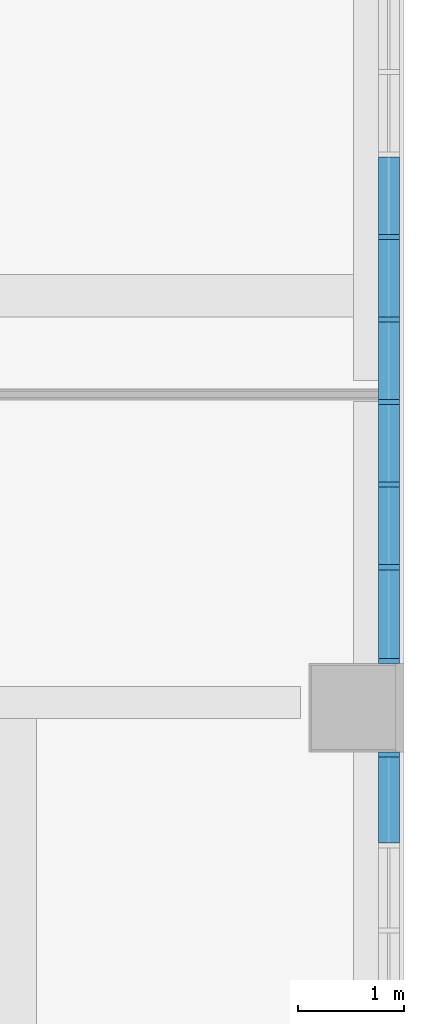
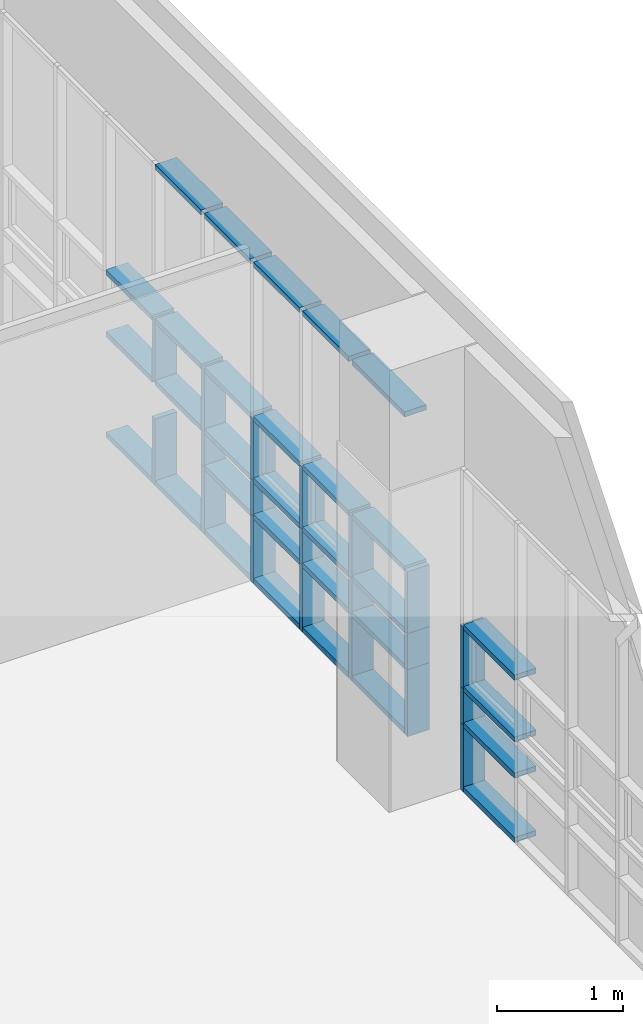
# One storey, part 25 of 74: 51 members, 2 elements without a shape of their own.
"""IFC2X3 building model written with IfcOpenShell, lengths in millimetres."""

from ifc_helpers import new_model, entity, si_unit, converted_unit, derived_unit, direction, frame, origin, origin_2d_with_axis, place, context, subcontext, project, spatial, rectangle, extrude, source, transform, mapped, material, type_object, type_shapes, element, aggregate, save


model = new_model("IFC2X3")

# Units and contexts
model_context = context("Model", 3, precision=0.01, world=origin(), true_north=direction((6.123031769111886e-17, 1.0)))
body_context = subcontext(model_context, "Body", "Model", "MODEL_VIEW")
ifc_project = project(units=[si_unit("LENGTHUNIT", "METRE", prefix="MILLI"), si_unit("AREAUNIT", "SQUARE_METRE"), si_unit("VOLUMEUNIT", "CUBIC_METRE"), converted_unit("PLANEANGLEUNIT", "DEGREE", entity("IfcRatioMeasure", 0.017453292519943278), si_unit("PLANEANGLEUNIT", "RADIAN"), dimensions=[0, 0, 0, 0, 0, 0, 0]), si_unit("MASSUNIT", "GRAM", prefix="KILO"), derived_unit("MASSDENSITYUNIT", [(si_unit("MASSUNIT", "GRAM", prefix="KILO"), 1), (si_unit("LENGTHUNIT", "METRE"), -3)]), derived_unit("MOMENTOFINERTIAUNIT", [(si_unit("LENGTHUNIT", "METRE"), 4)]), si_unit("TIMEUNIT", "SECOND"), si_unit("FREQUENCYUNIT", "HERTZ"), si_unit("THERMODYNAMICTEMPERATUREUNIT", "DEGREE_CELSIUS"), derived_unit("THERMALTRANSMITTANCEUNIT", [(si_unit("MASSUNIT", "GRAM", prefix="KILO"), 1), (si_unit("THERMODYNAMICTEMPERATUREUNIT", "KELVIN"), -1), (si_unit("TIMEUNIT", "SECOND"), -3)]), derived_unit("VOLUMETRICFLOWRATEUNIT", [(si_unit("LENGTHUNIT", "METRE"), 3), (si_unit("TIMEUNIT", "SECOND"), -1)]), derived_unit("MASSFLOWRATEUNIT", [(si_unit("MASSUNIT", "GRAM", prefix="KILO"), 1), (si_unit("TIMEUNIT", "SECOND"), -1)]), derived_unit("ROTATIONALFREQUENCYUNIT", [(si_unit("TIMEUNIT", "SECOND"), -1)]), si_unit("ELECTRICCURRENTUNIT", "AMPERE"), si_unit("ELECTRICVOLTAGEUNIT", "VOLT"), si_unit("POWERUNIT", "WATT"), si_unit("FORCEUNIT", "NEWTON", prefix="KILO"), si_unit("ILLUMINANCEUNIT", "LUX"), si_unit("LUMINOUSFLUXUNIT", "LUMEN"), si_unit("LUMINOUSINTENSITYUNIT", "CANDELA"), derived_unit("USERDEFINED", [(si_unit("MASSUNIT", "GRAM", prefix="KILO"), -1), (si_unit("LENGTHUNIT", "METRE"), -2), (si_unit("TIMEUNIT", "SECOND"), 3), (si_unit("LUMINOUSFLUXUNIT", "LUMEN"), 1)]), derived_unit("SOUNDPOWERUNIT", [(si_unit("MASSUNIT", "GRAM", prefix="KILO"), 1), (si_unit("LENGTHUNIT", "METRE"), 2), (si_unit("TIMEUNIT", "SECOND"), -3)]), derived_unit("SOUNDPRESSUREUNIT", [(si_unit("MASSUNIT", "GRAM", prefix="KILO"), 1), (si_unit("LENGTHUNIT", "METRE"), -1), (si_unit("TIMEUNIT", "SECOND"), -2)]), derived_unit("LINEARVELOCITYUNIT", [(si_unit("LENGTHUNIT", "METRE"), 1), (si_unit("TIMEUNIT", "SECOND"), -1)]), si_unit("PRESSUREUNIT", "PASCAL"), derived_unit("USERDEFINED", [(si_unit("LENGTHUNIT", "METRE"), -2), (si_unit("MASSUNIT", "GRAM", prefix="KILO"), 1), (si_unit("TIMEUNIT", "SECOND"), -2)]), derived_unit("LINEARFORCEUNIT", [(si_unit("MASSUNIT", "GRAM", prefix="KILO"), 1), (si_unit("LENGTHUNIT", "METRE"), 1), (si_unit("TIMEUNIT", "SECOND"), -2), (si_unit("LENGTHUNIT", "METRE"), -1)]), derived_unit("PLANARFORCEUNIT", [(si_unit("MASSUNIT", "GRAM", prefix="KILO"), 1), (si_unit("LENGTHUNIT", "METRE"), 1), (si_unit("TIMEUNIT", "SECOND"), -2), (si_unit("LENGTHUNIT", "METRE"), -2)])], contexts=[model_context])

# Site, building, storey
site_placement = place(None, frame((-14167.972527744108, -657.2125860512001, 0.0)))
site = spatial("IfcSite", under=ifc_project, at=site_placement, Name="Default", CompositionType="ELEMENT")
building_placement = place(site_placement, origin())
building = spatial("IfcBuilding", under=site, at=building_placement, Name="Sample Building", CompositionType="ELEMENT")
storey_placement = place(building_placement, frame((0.0, 0.0, 4800.0)))
storey = spatial("IfcBuildingStorey", under=building, at=storey_placement, Name="지상 2층", CompositionType="ELEMENT", Elevation=4800.000000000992)

# Curtain wall, member
curtain_wall_type = type_object("IfcCurtainWallType", Name="커튼월:CW112-스테인리스 스틸 커튼월", PredefinedType="NOTDEFINED")
curtain_wall_1_placement = place(storey_placement, frame((0.0, 0.0, -4800.0)))
curtain_wall_1 = element("IfcCurtainWall", 1, at=curtain_wall_1_placement, inside=storey, type_object=curtain_wall_type, Name="커튼월:CW112-스테인리스 스틸 커튼월", ObjectType="커튼월:CW112-스테인리스 스틸 커튼월")
ifc_material = material(Name="<Unnamed>")
member_type_1 = type_object("IfcMemberType", Name="직사각형 멀리언:CW200-직사각형 멀리언 50x200mm", PredefinedType="MULLION", material=ifc_material)
shared_shape_1 = source(origin(), body_context, "Body", "SweptSolid", [
    extrude(rectangle(XDim=200.0, YDim=50.0, at=origin_2d_with_axis()), frame((-25.0, 0.0, -650.0), z_axis=(0.0, 0.0, 1.0), x_axis=(0.0, -1.0, 0.0)), (0.0, 0.0, 1.0), 650.0000000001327),
])
type_shapes(member_type_1, [shared_shape_1])
member_1_placement = place(curtain_wall_1_placement, frame((51405.463828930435, 12239.212729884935, 4880.0), z_axis=(0.0, 0.0, -1.0), x_axis=(0.0, 1.0, 0.0)))
member_1 = element("IfcMember", 2, at=member_1_placement, type_object=member_type_1, material=ifc_material, Name="직사각형 멀리언:CW200-직사각형 멀리언 50x200mm", ObjectType="직사각형 멀리언:CW200-직사각형 멀리언 50x200mm", context=body_context, shape_type="MappedRepresentation", body=[
    mapped(shared_shape_1, transform((0.0, 0.0, 0.0), scale=1.0)),
])

# Curtain wall, members
curtain_wall_2_placement = place(storey_placement, frame((0.0, 0.0, -4800.0)))
curtain_wall_2 = element("IfcCurtainWall", 3, at=curtain_wall_2_placement, inside=storey, type_object=curtain_wall_type, Name="커튼월:CW112-스테인리스 스틸 커튼월", ObjectType="커튼월:CW112-스테인리스 스틸 커튼월")
member_type_2 = type_object("IfcMemberType", Name="직사각형 멀리언:CW200-직사각형 멀리언 50x200mm", PredefinedType="MULLION", material=ifc_material)
shared_shape_2 = source(origin(), body_context, "Body", "SweptSolid", [
    extrude(rectangle(XDim=200.0, YDim=50.0, at=origin_2d_with_axis()), frame((0.0, 0.0, -650.0), z_axis=(0.0, 0.0, 1.0), x_axis=(0.0, -1.0, 0.0)), (0.0, 0.0, 1.0), 650.0000000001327),
])
type_shapes(member_type_2, [shared_shape_2])
member_2_placement = place(curtain_wall_2_placement, frame((51405.46382893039, 13988.462275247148, 4880.0), z_axis=(0.0, 0.0, -1.0), x_axis=(0.0, 1.0, 0.0)))
member_2 = element("IfcMember", 4, at=member_2_placement, type_object=member_type_2, material=ifc_material, Name="직사각형 멀리언:CW200-직사각형 멀리언 50x200mm", ObjectType="직사각형 멀리언:CW200-직사각형 멀리언 50x200mm", context=body_context, shape_type="MappedRepresentation", body=[
    mapped(shared_shape_2, transform((0.0, 0.0, 0.0), scale=1.0)),
])
member_3_placement = place(curtain_wall_2_placement, frame((51405.46382893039, 14769.712275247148, 4880.0), z_axis=(0.0, 0.0, -1.0), x_axis=(0.0, 1.0, 0.0)))
member_3 = element("IfcMember", 5, at=member_3_placement, type_object=member_type_2, material=ifc_material, Name="직사각형 멀리언:CW200-직사각형 멀리언 50x200mm", ObjectType="직사각형 멀리언:CW200-직사각형 멀리언 50x200mm", context=body_context, shape_type="MappedRepresentation", body=[
    mapped(shared_shape_2, transform((0.0, 0.0, 0.0), scale=1.0)),
])
member_4_placement = place(curtain_wall_2_placement, frame((51405.4638289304, 15550.962275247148, 4880.0), z_axis=(0.0, 0.0, -1.0), x_axis=(0.0, 1.0, 0.0)))
member_4 = element("IfcMember", 6, at=member_4_placement, type_object=member_type_2, material=ifc_material, Name="직사각형 멀리언:CW200-직사각형 멀리언 50x200mm", ObjectType="직사각형 멀리언:CW200-직사각형 멀리언 50x200mm", context=body_context, shape_type="MappedRepresentation", body=[
    mapped(shared_shape_2, transform((0.0, 0.0, 0.0), scale=1.0)),
])
member_5_placement = place(curtain_wall_2_placement, frame((51405.4638289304, 16332.212275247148, 4880.0), z_axis=(0.0, 0.0, -1.0), x_axis=(0.0, 1.0, 0.0)))
member_5 = element("IfcMember", 7, at=member_5_placement, type_object=member_type_2, material=ifc_material, Name="직사각형 멀리언:CW200-직사각형 멀리언 50x200mm", ObjectType="직사각형 멀리언:CW200-직사각형 멀리언 50x200mm", context=body_context, shape_type="MappedRepresentation", body=[
    mapped(shared_shape_2, transform((0.0, 0.0, 0.0), scale=1.0)),
])
member_6_placement = place(curtain_wall_2_placement, frame((51405.4638289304, 17113.462275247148, 4880.0), z_axis=(0.0, 0.0, -1.0), x_axis=(0.0, 1.0, 0.0)))
member_6 = element("IfcMember", 8, at=member_6_placement, type_object=member_type_2, material=ifc_material, Name="직사각형 멀리언:CW200-직사각형 멀리언 50x200mm", ObjectType="직사각형 멀리언:CW200-직사각형 멀리언 50x200mm", context=body_context, shape_type="MappedRepresentation", body=[
    mapped(shared_shape_2, transform((0.0, 0.0, 0.0), scale=1.0)),
])
member_type_3 = type_object("IfcMemberType", Name="직사각형 멀리언:CW200-직사각형 멀리언 50x200mm", PredefinedType="MULLION", material=ifc_material)
shared_shape_3 = source(origin(), body_context, "Body", "SweptSolid", [
    extrude(rectangle(XDim=200.0, YDim=50.0, at=origin_2d_with_axis()), frame((-25.0, 0.0, -600.0), z_axis=(0.0, 0.0, 1.0), x_axis=(0.0, -1.0, 0.0)), (0.0, 0.0, 1.0), 600.0),
])
type_shapes(member_type_3, [shared_shape_3])
member_7_placement = place(curtain_wall_2_placement, frame((51405.46382893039, 13075.212729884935, 6480.0), z_axis=(0.0, 0.0, 1.0), x_axis=(0.0, -1.0, 0.0)))
member_7 = element("IfcMember", 9, at=member_7_placement, type_object=member_type_3, material=ifc_material, Name="직사각형 멀리언:CW200-직사각형 멀리언 50x200mm", ObjectType="직사각형 멀리언:CW200-직사각형 멀리언 50x200mm", context=body_context, shape_type="MappedRepresentation", body=[
    mapped(shared_shape_3, transform((0.0, 0.0, 0.0), scale=1.0)),
])

# Member
member_type_4 = type_object("IfcMemberType", Name="직사각형 멀리언:CW200-직사각형 멀리언 50x200mm", PredefinedType="MULLION", material=ifc_material)
shared_shape_4 = source(origin(), body_context, "Body", "SweptSolid", [
    extrude(rectangle(XDim=200.0, YDim=50.0, at=origin_2d_with_axis()), frame((-25.0, 0.0, -600.0), z_axis=(0.0, 0.0, 1.0), x_axis=(0.0, -1.0, 0.0)), (0.0, 0.0, 1.0), 600.0),
])
type_shapes(member_type_4, [shared_shape_4])
member_8_placement = place(curtain_wall_1_placement, frame((51405.463828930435, 12239.212729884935, 5880.0), z_axis=(0.0, 0.0, -1.0), x_axis=(0.0, 1.0, 0.0)))
member_8 = element("IfcMember", 10, at=member_8_placement, type_object=member_type_4, material=ifc_material, Name="직사각형 멀리언:CW200-직사각형 멀리언 50x200mm", ObjectType="직사각형 멀리언:CW200-직사각형 멀리언 50x200mm", context=body_context, shape_type="MappedRepresentation", body=[
    mapped(shared_shape_4, transform((0.0, 0.0, 0.0), scale=1.0)),
])

member_type_5 = type_object("IfcMemberType", Name="직사각형 멀리언:CW200-직사각형 멀리언 50x200mm", PredefinedType="MULLION", material=ifc_material)
shared_shape_5 = source(origin(), body_context, "Body", "SweptSolid", [
    extrude(rectangle(XDim=200.0, YDim=50.0, at=origin_2d_with_axis()), frame((-25.0, 0.0, -350.0), z_axis=(0.0, 0.0, 1.0), x_axis=(0.0, -1.0, 0.0)), (0.0, 0.0, 1.0), 349.9999999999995),
])
type_shapes(member_type_5, [shared_shape_5])
member_9_placement = place(curtain_wall_2_placement, frame((51405.46382893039, 13075.212729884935, 5880.0), z_axis=(0.0, 0.0, 1.0), x_axis=(0.0, -1.0, 0.0)))
member_9 = element("IfcMember", 11, at=member_9_placement, type_object=member_type_5, material=ifc_material, Name="직사각형 멀리언:CW200-직사각형 멀리언 50x200mm", ObjectType="직사각형 멀리언:CW200-직사각형 멀리언 50x200mm", context=body_context, shape_type="MappedRepresentation", body=[
    mapped(shared_shape_5, transform((0.0, 0.0, 0.0), scale=1.0)),
])

member_type_6 = type_object("IfcMemberType", Name="직사각형 멀리언:CW200-직사각형 멀리언 50x200mm", PredefinedType="MULLION", material=ifc_material)
shared_shape_6 = source(origin(), body_context, "Body", "SweptSolid", [
    extrude(rectangle(XDim=200.0, YDim=50.0, at=origin_2d_with_axis()), frame((0.0, 0.0, -600.0), z_axis=(0.0, 0.0, 1.0), x_axis=(0.0, -1.0, 0.0)), (0.0, 0.0, 1.0), 600.0),
])
type_shapes(member_type_6, [shared_shape_6])
member_10_placement = place(curtain_wall_2_placement, frame((51405.46382893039, 13988.462275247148, 5880.0), z_axis=(0.0, 0.0, -1.0), x_axis=(0.0, 1.0, 0.0)))
member_10 = element("IfcMember", 12, at=member_10_placement, type_object=member_type_6, material=ifc_material, Name="직사각형 멀리언:CW200-직사각형 멀리언 50x200mm", ObjectType="직사각형 멀리언:CW200-직사각형 멀리언 50x200mm", context=body_context, shape_type="MappedRepresentation", body=[
    mapped(shared_shape_6, transform((0.0, 0.0, 0.0), scale=1.0)),
])

member_11_placement = place(curtain_wall_2_placement, frame((51405.46382893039, 14769.712275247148, 5880.0), z_axis=(0.0, 0.0, -1.0), x_axis=(0.0, 1.0, 0.0)))
member_11 = element("IfcMember", 13, at=member_11_placement, type_object=member_type_6, material=ifc_material, Name="직사각형 멀리언:CW200-직사각형 멀리언 50x200mm", ObjectType="직사각형 멀리언:CW200-직사각형 멀리언 50x200mm", context=body_context, shape_type="MappedRepresentation", body=[
    mapped(shared_shape_6, transform((0.0, 0.0, 0.0), scale=1.0)),
])

member_12_placement = place(curtain_wall_2_placement, frame((51405.4638289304, 15550.962275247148, 5880.0), z_axis=(0.0, 0.0, -1.0), x_axis=(0.0, 1.0, 0.0)))
member_12 = element("IfcMember", 14, at=member_12_placement, type_object=member_type_6, material=ifc_material, Name="직사각형 멀리언:CW200-직사각형 멀리언 50x200mm", ObjectType="직사각형 멀리언:CW200-직사각형 멀리언 50x200mm", context=body_context, shape_type="MappedRepresentation", body=[
    mapped(shared_shape_6, transform((0.0, 0.0, 0.0), scale=1.0)),
])

member_13_placement = place(curtain_wall_2_placement, frame((51405.4638289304, 16332.212275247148, 5880.0), z_axis=(0.0, 0.0, -1.0), x_axis=(0.0, 1.0, 0.0)))
member_13 = element("IfcMember", 15, at=member_13_placement, type_object=member_type_6, material=ifc_material, Name="직사각형 멀리언:CW200-직사각형 멀리언 50x200mm", ObjectType="직사각형 멀리언:CW200-직사각형 멀리언 50x200mm", context=body_context, shape_type="MappedRepresentation", body=[
    mapped(shared_shape_6, transform((0.0, 0.0, 0.0), scale=1.0)),
])

member_14_placement = place(curtain_wall_2_placement, frame((51405.4638289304, 17113.462275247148, 5880.0), z_axis=(0.0, 0.0, -1.0), x_axis=(0.0, 1.0, 0.0)))
member_14 = element("IfcMember", 16, at=member_14_placement, type_object=member_type_6, material=ifc_material, Name="직사각형 멀리언:CW200-직사각형 멀리언 50x200mm", ObjectType="직사각형 멀리언:CW200-직사각형 멀리언 50x200mm", context=body_context, shape_type="MappedRepresentation", body=[
    mapped(shared_shape_6, transform((0.0, 0.0, 0.0), scale=1.0)),
])

member_type_7 = type_object("IfcMemberType", Name="직사각형 멀리언:CW200-직사각형 멀리언 50x200mm", PredefinedType="MULLION", material=ifc_material)
shared_shape_7 = source(origin(), body_context, "Body", "SweptSolid", [
    extrude(rectangle(XDim=200.0, YDim=50.0, at=origin_2d_with_axis()), frame((-25.0, 0.0, -350.0), z_axis=(0.0, 0.0, 1.0), x_axis=(0.0, -1.0, 0.0)), (0.0, 0.0, 1.0), 349.9999999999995),
])
type_shapes(member_type_7, [shared_shape_7])
member_15_placement = place(curtain_wall_1_placement, frame((51405.463828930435, 12239.212729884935, 5530.0), z_axis=(0.0, 0.0, -1.0), x_axis=(0.0, 1.0, 0.0)))
member_15 = element("IfcMember", 17, at=member_15_placement, type_object=member_type_7, material=ifc_material, Name="직사각형 멀리언:CW200-직사각형 멀리언 50x200mm", ObjectType="직사각형 멀리언:CW200-직사각형 멀리언 50x200mm", context=body_context, shape_type="MappedRepresentation", body=[
    mapped(shared_shape_7, transform((0.0, 0.0, 0.0), scale=1.0)),
])

member_type_8 = type_object("IfcMemberType", Name="직사각형 멀리언:CW200-직사각형 멀리언 50x200mm", PredefinedType="MULLION", material=ifc_material)
shared_shape_8 = source(origin(), body_context, "Body", "SweptSolid", [
    extrude(rectangle(XDim=200.0, YDim=50.0, at=origin_2d_with_axis()), frame((-25.0, 0.0, -650.0), z_axis=(0.0, 0.0, 1.0), x_axis=(0.0, -1.0, 0.0)), (0.0, 0.0, 1.0), 650.0000000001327),
])
type_shapes(member_type_8, [shared_shape_8])
member_16_placement = place(curtain_wall_2_placement, frame((51405.46382893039, 13075.212729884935, 5530.0), z_axis=(0.0, 0.0, 1.0), x_axis=(0.0, -1.0, 0.0)))
member_16 = element("IfcMember", 18, at=member_16_placement, type_object=member_type_8, material=ifc_material, Name="직사각형 멀리언:CW200-직사각형 멀리언 50x200mm", ObjectType="직사각형 멀리언:CW200-직사각형 멀리언 50x200mm", context=body_context, shape_type="MappedRepresentation", body=[
    mapped(shared_shape_8, transform((0.0, 0.0, 0.0), scale=1.0)),
])

member_type_9 = type_object("IfcMemberType", Name="직사각형 멀리언:CW200-직사각형 멀리언 50x200mm", PredefinedType="MULLION", material=ifc_material)
shared_shape_9 = source(origin(), body_context, "Body", "SweptSolid", [
    extrude(rectangle(XDim=200.0, YDim=50.0, at=origin_2d_with_axis()), frame((0.0, 0.0, -350.0), z_axis=(0.0, 0.0, 1.0), x_axis=(0.0, -1.0, 0.0)), (0.0, 0.0, 1.0), 349.9999999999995),
])
type_shapes(member_type_9, [shared_shape_9])
member_17_placement = place(curtain_wall_2_placement, frame((51405.46382893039, 13988.462275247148, 5530.0), z_axis=(0.0, 0.0, -1.0), x_axis=(0.0, 1.0, 0.0)))
member_17 = element("IfcMember", 19, at=member_17_placement, type_object=member_type_9, material=ifc_material, Name="직사각형 멀리언:CW200-직사각형 멀리언 50x200mm", ObjectType="직사각형 멀리언:CW200-직사각형 멀리언 50x200mm", context=body_context, shape_type="MappedRepresentation", body=[
    mapped(shared_shape_9, transform((0.0, 0.0, 0.0), scale=1.0)),
])

member_18_placement = place(curtain_wall_2_placement, frame((51405.46382893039, 14769.712275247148, 5530.0), z_axis=(0.0, 0.0, -1.0), x_axis=(0.0, 1.0, 0.0)))
member_18 = element("IfcMember", 20, at=member_18_placement, type_object=member_type_9, material=ifc_material, Name="직사각형 멀리언:CW200-직사각형 멀리언 50x200mm", ObjectType="직사각형 멀리언:CW200-직사각형 멀리언 50x200mm", context=body_context, shape_type="MappedRepresentation", body=[
    mapped(shared_shape_9, transform((0.0, 0.0, 0.0), scale=1.0)),
])

member_19_placement = place(curtain_wall_2_placement, frame((51405.4638289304, 15550.962275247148, 5530.0), z_axis=(0.0, 0.0, -1.0), x_axis=(0.0, 1.0, 0.0)))
member_19 = element("IfcMember", 21, at=member_19_placement, type_object=member_type_9, material=ifc_material, Name="직사각형 멀리언:CW200-직사각형 멀리언 50x200mm", ObjectType="직사각형 멀리언:CW200-직사각형 멀리언 50x200mm", context=body_context, shape_type="MappedRepresentation", body=[
    mapped(shared_shape_9, transform((0.0, 0.0, 0.0), scale=1.0)),
])

member_20_placement = place(curtain_wall_2_placement, frame((51405.4638289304, 16332.212275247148, 5530.0), z_axis=(0.0, 0.0, -1.0), x_axis=(0.0, 1.0, 0.0)))
member_20 = element("IfcMember", 22, at=member_20_placement, type_object=member_type_9, material=ifc_material, Name="직사각형 멀리언:CW200-직사각형 멀리언 50x200mm", ObjectType="직사각형 멀리언:CW200-직사각형 멀리언 50x200mm", context=body_context, shape_type="MappedRepresentation", body=[
    mapped(shared_shape_9, transform((0.0, 0.0, 0.0), scale=1.0)),
])

member_type_10 = type_object("IfcMemberType", Name="직사각형 멀리언:CW200-직사각형 멀리언 50x200mm", PredefinedType="MULLION", material=ifc_material)
shared_shape_10 = source(origin(), body_context, "Body", "SweptSolid", [
    extrude(rectangle(XDim=200.0, YDim=50.0, at=origin_2d_with_axis()), frame((-25.0, 0.0, -731.2499999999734), z_axis=(0.0, 0.0, 1.0), x_axis=(0.0, -1.0, 0.0)), (0.0, 0.0, 1.0), 731.2499999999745),
])
type_shapes(member_type_10, [shared_shape_10])
member_21_placement = place(curtain_wall_2_placement, frame((51405.46382893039, 14013.46227524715, 4880.0), z_axis=(0.0, -1.0, 0.0), x_axis=(0.0, 0.0, -1.0)))
member_21 = element("IfcMember", 23, at=member_21_placement, type_object=member_type_10, material=ifc_material, Name="직사각형 멀리언:CW200-직사각형 멀리언 50x200mm", ObjectType="직사각형 멀리언:CW200-직사각형 멀리언 50x200mm", context=body_context, shape_type="MappedRepresentation", body=[
    mapped(shared_shape_10, transform((0.0, 0.0, 0.0), scale=1.0)),
])

member_22_placement = place(curtain_wall_2_placement, frame((51405.46382893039, 14794.71227524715, 4880.0), z_axis=(0.0, -1.0, 0.0), x_axis=(0.0, 0.0, -1.0)))
member_22 = element("IfcMember", 24, at=member_22_placement, type_object=member_type_10, material=ifc_material, Name="직사각형 멀리언:CW200-직사각형 멀리언 50x200mm", ObjectType="직사각형 멀리언:CW200-직사각형 멀리언 50x200mm", context=body_context, shape_type="MappedRepresentation", body=[
    mapped(shared_shape_10, transform((0.0, 0.0, 0.0), scale=1.0)),
])

member_23_placement = place(curtain_wall_2_placement, frame((51405.4638289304, 15575.96227524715, 4880.0), z_axis=(0.0, -1.0, 0.0), x_axis=(0.0, 0.0, -1.0)))
member_23 = element("IfcMember", 25, at=member_23_placement, type_object=member_type_10, material=ifc_material, Name="직사각형 멀리언:CW200-직사각형 멀리언 50x200mm", ObjectType="직사각형 멀리언:CW200-직사각형 멀리언 50x200mm", context=body_context, shape_type="MappedRepresentation", body=[
    mapped(shared_shape_10, transform((0.0, 0.0, 0.0), scale=1.0)),
])

member_24_placement = place(curtain_wall_2_placement, frame((51405.4638289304, 16357.21227524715, 4880.0), z_axis=(0.0, -1.0, 0.0), x_axis=(0.0, 0.0, -1.0)))
member_24 = element("IfcMember", 26, at=member_24_placement, type_object=member_type_10, material=ifc_material, Name="직사각형 멀리언:CW200-직사각형 멀리언 50x200mm", ObjectType="직사각형 멀리언:CW200-직사각형 멀리언 50x200mm", context=body_context, shape_type="MappedRepresentation", body=[
    mapped(shared_shape_10, transform((0.0, 0.0, 0.0), scale=1.0)),
])

member_25_placement = place(curtain_wall_2_placement, frame((51405.4638289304, 17138.462275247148, 4880.0), z_axis=(0.0, -1.0, 0.0), x_axis=(0.0, 0.0, -1.0)))
member_25 = element("IfcMember", 27, at=member_25_placement, type_object=member_type_10, material=ifc_material, Name="직사각형 멀리언:CW200-직사각형 멀리언 50x200mm", ObjectType="직사각형 멀리언:CW200-직사각형 멀리언 50x200mm", context=body_context, shape_type="MappedRepresentation", body=[
    mapped(shared_shape_10, transform((0.0, 0.0, 0.0), scale=1.0)),
])

member_type_11 = type_object("IfcMemberType", Name="직사각형 멀리언:CW200-직사각형 멀리언 50x200mm", PredefinedType="MULLION", material=ifc_material)
shared_shape_11 = source(origin(), body_context, "Body", "SweptSolid", [
    extrude(rectangle(XDim=200.0, YDim=50.0, at=origin_2d_with_axis()), frame((-25.0, 0.0, -731.2499999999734), z_axis=(0.0, 0.0, 1.0), x_axis=(0.0, -1.0, 0.0)), (0.0, 0.0, 1.0), 731.2499999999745),
])
type_shapes(member_type_11, [shared_shape_11])
member_26_placement = place(curtain_wall_2_placement, frame((51405.46382893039, 14744.712275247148, 8000.0), z_axis=(0.0, 1.0, 0.0), x_axis=(0.0, 0.0, 1.0)))
member_26 = element("IfcMember", 28, at=member_26_placement, type_object=member_type_11, material=ifc_material, Name="직사각형 멀리언:CW200-직사각형 멀리언 50x200mm", ObjectType="직사각형 멀리언:CW200-직사각형 멀리언 50x200mm", context=body_context, shape_type="MappedRepresentation", body=[
    mapped(shared_shape_11, transform((0.0, 0.0, 0.0), scale=1.0)),
])

member_27_placement = place(curtain_wall_2_placement, frame((51405.4638289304, 15525.962275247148, 8000.0), z_axis=(0.0, 1.0, 0.0), x_axis=(0.0, 0.0, 1.0)))
member_27 = element("IfcMember", 29, at=member_27_placement, type_object=member_type_11, material=ifc_material, Name="직사각형 멀리언:CW200-직사각형 멀리언 50x200mm", ObjectType="직사각형 멀리언:CW200-직사각형 멀리언 50x200mm", context=body_context, shape_type="MappedRepresentation", body=[
    mapped(shared_shape_11, transform((0.0, 0.0, 0.0), scale=1.0)),
])

member_28_placement = place(curtain_wall_2_placement, frame((51405.4638289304, 16307.212275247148, 8000.0), z_axis=(0.0, 1.0, 0.0), x_axis=(0.0, 0.0, 1.0)))
member_28 = element("IfcMember", 30, at=member_28_placement, type_object=member_type_11, material=ifc_material, Name="직사각형 멀리언:CW200-직사각형 멀리언 50x200mm", ObjectType="직사각형 멀리언:CW200-직사각형 멀리언 50x200mm", context=body_context, shape_type="MappedRepresentation", body=[
    mapped(shared_shape_11, transform((0.0, 0.0, 0.0), scale=1.0)),
])

member_29_placement = place(curtain_wall_2_placement, frame((51405.4638289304, 17088.462275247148, 8000.0), z_axis=(0.0, 1.0, 0.0), x_axis=(0.0, 0.0, 1.0)))
member_29 = element("IfcMember", 31, at=member_29_placement, type_object=member_type_11, material=ifc_material, Name="직사각형 멀리언:CW200-직사각형 멀리언 50x200mm", ObjectType="직사각형 멀리언:CW200-직사각형 멀리언 50x200mm", context=body_context, shape_type="MappedRepresentation", body=[
    mapped(shared_shape_11, transform((0.0, 0.0, 0.0), scale=1.0)),
])

member_type_12 = type_object("IfcMemberType", Name="직사각형 멀리언:CW200-직사각형 멀리언 50x200mm", PredefinedType="MULLION", material=ifc_material)
shared_shape_12 = source(origin(), body_context, "Body", "SweptSolid", [
    extrude(rectangle(XDim=200.0, YDim=50.0, at=origin_2d_with_axis()), frame((0.0, 0.0, -731.2499999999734), z_axis=(0.0, 0.0, 1.0), x_axis=(0.0, -1.0, 0.0)), (0.0, 0.0, 1.0), 731.2499999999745),
])
type_shapes(member_type_12, [shared_shape_12])
member_30_placement = place(curtain_wall_2_placement, frame((51405.46382893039, 14744.712275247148, 6480.0), z_axis=(0.0, 1.0, 0.0), x_axis=(0.0, 0.0, 1.0)))
member_30 = element("IfcMember", 32, at=member_30_placement, type_object=member_type_12, material=ifc_material, Name="직사각형 멀리언:CW200-직사각형 멀리언 50x200mm", ObjectType="직사각형 멀리언:CW200-직사각형 멀리언 50x200mm", context=body_context, shape_type="MappedRepresentation", body=[
    mapped(shared_shape_12, transform((0.0, 0.0, 0.0), scale=1.0)),
])

member_31_placement = place(curtain_wall_2_placement, frame((51405.4638289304, 15525.962275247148, 6480.0), z_axis=(0.0, 1.0, 0.0), x_axis=(0.0, 0.0, 1.0)))
member_31 = element("IfcMember", 33, at=member_31_placement, type_object=member_type_12, material=ifc_material, Name="직사각형 멀리언:CW200-직사각형 멀리언 50x200mm", ObjectType="직사각형 멀리언:CW200-직사각형 멀리언 50x200mm", context=body_context, shape_type="MappedRepresentation", body=[
    mapped(shared_shape_12, transform((0.0, 0.0, 0.0), scale=1.0)),
])

member_32_placement = place(curtain_wall_2_placement, frame((51405.4638289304, 16307.212275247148, 6480.0), z_axis=(0.0, 1.0, 0.0), x_axis=(0.0, 0.0, 1.0)))
member_32 = element("IfcMember", 34, at=member_32_placement, type_object=member_type_12, material=ifc_material, Name="직사각형 멀리언:CW200-직사각형 멀리언 50x200mm", ObjectType="직사각형 멀리언:CW200-직사각형 멀리언 50x200mm", context=body_context, shape_type="MappedRepresentation", body=[
    mapped(shared_shape_12, transform((0.0, 0.0, 0.0), scale=1.0)),
])

member_33_placement = place(curtain_wall_2_placement, frame((51405.4638289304, 17088.462275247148, 6480.0), z_axis=(0.0, 1.0, 0.0), x_axis=(0.0, 0.0, 1.0)))
member_33 = element("IfcMember", 35, at=member_33_placement, type_object=member_type_12, material=ifc_material, Name="직사각형 멀리언:CW200-직사각형 멀리언 50x200mm", ObjectType="직사각형 멀리언:CW200-직사각형 멀리언 50x200mm", context=body_context, shape_type="MappedRepresentation", body=[
    mapped(shared_shape_12, transform((0.0, 0.0, 0.0), scale=1.0)),
])

member_34_placement = place(curtain_wall_2_placement, frame((51405.463828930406, 17869.712275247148, 6480.0), z_axis=(0.0, 1.0, 0.0), x_axis=(0.0, 0.0, 1.0)))
member_34 = element("IfcMember", 36, at=member_34_placement, type_object=member_type_12, material=ifc_material, Name="직사각형 멀리언:CW200-직사각형 멀리언 50x200mm", ObjectType="직사각형 멀리언:CW200-직사각형 멀리언 50x200mm", context=body_context, shape_type="MappedRepresentation", body=[
    mapped(shared_shape_12, transform((0.0, 0.0, 0.0), scale=1.0)),
])

member_35_placement = place(curtain_wall_2_placement, frame((51405.46382893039, 14744.712275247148, 5880.0), z_axis=(0.0, 1.0, 0.0), x_axis=(0.0, 0.0, 1.0)))
member_35 = element("IfcMember", 37, at=member_35_placement, type_object=member_type_12, material=ifc_material, Name="직사각형 멀리언:CW200-직사각형 멀리언 50x200mm", ObjectType="직사각형 멀리언:CW200-직사각형 멀리언 50x200mm", context=body_context, shape_type="MappedRepresentation", body=[
    mapped(shared_shape_12, transform((0.0, 0.0, 0.0), scale=1.0)),
])

member_36_placement = place(curtain_wall_2_placement, frame((51405.4638289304, 15525.962275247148, 5880.0), z_axis=(0.0, 1.0, 0.0), x_axis=(0.0, 0.0, 1.0)))
member_36 = element("IfcMember", 38, at=member_36_placement, type_object=member_type_12, material=ifc_material, Name="직사각형 멀리언:CW200-직사각형 멀리언 50x200mm", ObjectType="직사각형 멀리언:CW200-직사각형 멀리언 50x200mm", context=body_context, shape_type="MappedRepresentation", body=[
    mapped(shared_shape_12, transform((0.0, 0.0, 0.0), scale=1.0)),
])

member_37_placement = place(curtain_wall_2_placement, frame((51405.4638289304, 16307.212275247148, 5880.0), z_axis=(0.0, 1.0, 0.0), x_axis=(0.0, 0.0, 1.0)))
member_37 = element("IfcMember", 39, at=member_37_placement, type_object=member_type_12, material=ifc_material, Name="직사각형 멀리언:CW200-직사각형 멀리언 50x200mm", ObjectType="직사각형 멀리언:CW200-직사각형 멀리언 50x200mm", context=body_context, shape_type="MappedRepresentation", body=[
    mapped(shared_shape_12, transform((0.0, 0.0, 0.0), scale=1.0)),
])

member_38_placement = place(curtain_wall_2_placement, frame((51405.4638289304, 17088.462275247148, 5880.0), z_axis=(0.0, 1.0, 0.0), x_axis=(0.0, 0.0, 1.0)))
member_38 = element("IfcMember", 40, at=member_38_placement, type_object=member_type_12, material=ifc_material, Name="직사각형 멀리언:CW200-직사각형 멀리언 50x200mm", ObjectType="직사각형 멀리언:CW200-직사각형 멀리언 50x200mm", context=body_context, shape_type="MappedRepresentation", body=[
    mapped(shared_shape_12, transform((0.0, 0.0, 0.0), scale=1.0)),
])

member_39_placement = place(curtain_wall_2_placement, frame((51405.463828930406, 17869.712275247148, 5880.0), z_axis=(0.0, 1.0, 0.0), x_axis=(0.0, 0.0, 1.0)))
member_39 = element("IfcMember", 41, at=member_39_placement, type_object=member_type_12, material=ifc_material, Name="직사각형 멀리언:CW200-직사각형 멀리언 50x200mm", ObjectType="직사각형 멀리언:CW200-직사각형 멀리언 50x200mm", context=body_context, shape_type="MappedRepresentation", body=[
    mapped(shared_shape_12, transform((0.0, 0.0, 0.0), scale=1.0)),
])

member_40_placement = place(curtain_wall_2_placement, frame((51405.46382893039, 14744.712275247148, 5530.0), z_axis=(0.0, 1.0, 0.0), x_axis=(0.0, 0.0, 1.0)))
member_40 = element("IfcMember", 42, at=member_40_placement, type_object=member_type_12, material=ifc_material, Name="직사각형 멀리언:CW200-직사각형 멀리언 50x200mm", ObjectType="직사각형 멀리언:CW200-직사각형 멀리언 50x200mm", context=body_context, shape_type="MappedRepresentation", body=[
    mapped(shared_shape_12, transform((0.0, 0.0, 0.0), scale=1.0)),
])

member_41_placement = place(curtain_wall_2_placement, frame((51405.4638289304, 15525.962275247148, 5530.0), z_axis=(0.0, 1.0, 0.0), x_axis=(0.0, 0.0, 1.0)))
member_41 = element("IfcMember", 43, at=member_41_placement, type_object=member_type_12, material=ifc_material, Name="직사각형 멀리언:CW200-직사각형 멀리언 50x200mm", ObjectType="직사각형 멀리언:CW200-직사각형 멀리언 50x200mm", context=body_context, shape_type="MappedRepresentation", body=[
    mapped(shared_shape_12, transform((0.0, 0.0, 0.0), scale=1.0)),
])

member_42_placement = place(curtain_wall_2_placement, frame((51405.4638289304, 16307.212275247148, 5530.0), z_axis=(0.0, 1.0, 0.0), x_axis=(0.0, 0.0, 1.0)))
member_42 = element("IfcMember", 44, at=member_42_placement, type_object=member_type_12, material=ifc_material, Name="직사각형 멀리언:CW200-직사각형 멀리언 50x200mm", ObjectType="직사각형 멀리언:CW200-직사각형 멀리언 50x200mm", context=body_context, shape_type="MappedRepresentation", body=[
    mapped(shared_shape_12, transform((0.0, 0.0, 0.0), scale=1.0)),
])

member_type_13 = type_object("IfcMemberType", Name="직사각형 멀리언:CW200-직사각형 멀리언 50x200mm", PredefinedType="MULLION", material=ifc_material)
shared_shape_13 = source(origin(), body_context, "Body", "SweptSolid", [
    extrude(rectangle(XDim=200.0, YDim=50.0, at=origin_2d_with_axis()), frame((-25.0, 0.0, -811.1669447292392), z_axis=(0.0, 0.0, 1.0), x_axis=(0.0, -1.0, 0.0)), (0.0, 0.0, 1.0), 811.1669447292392),
])
type_shapes(member_type_13, [shared_shape_13])
member_43_placement = place(curtain_wall_1_placement, frame((51405.463828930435, 11378.045919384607, 4880.0), z_axis=(0.0, -1.0, 0.0), x_axis=(0.0, 0.0, -1.0)))
member_43 = element("IfcMember", 45, at=member_43_placement, type_object=member_type_13, material=ifc_material, Name="직사각형 멀리언:CW200-직사각형 멀리언 50x200mm", ObjectType="직사각형 멀리언:CW200-직사각형 멀리언 50x200mm", context=body_context, shape_type="MappedRepresentation", body=[
    mapped(shared_shape_13, transform((0.0, 0.0, 0.0), scale=1.0)),
])

member_type_14 = type_object("IfcMemberType", Name="직사각형 멀리언:CW200-직사각형 멀리언 50x200mm", PredefinedType="MULLION", material=ifc_material)
shared_shape_14 = source(origin(), body_context, "Body", "SweptSolid", [
    extrude(rectangle(XDim=200.0, YDim=50.0, at=origin_2d_with_axis()), frame((0.0, 0.0, -811.1669447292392), z_axis=(0.0, 0.0, 1.0), x_axis=(0.0, -1.0, 0.0)), (0.0, 0.0, 1.0), 811.1669447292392),
])
type_shapes(member_type_14, [shared_shape_14])
member_44_placement = place(curtain_wall_1_placement, frame((51405.463828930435, 12189.212729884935, 6480.0), z_axis=(0.0, 1.0, 0.0), x_axis=(0.0, 0.0, 1.0)))
member_44 = element("IfcMember", 46, at=member_44_placement, type_object=member_type_14, material=ifc_material, Name="직사각형 멀리언:CW200-직사각형 멀리언 50x200mm", ObjectType="직사각형 멀리언:CW200-직사각형 멀리언 50x200mm", context=body_context, shape_type="MappedRepresentation", body=[
    mapped(shared_shape_14, transform((0.0, 0.0, 0.0), scale=1.0)),
])

member_45_placement = place(curtain_wall_1_placement, frame((51405.463828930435, 12189.212729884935, 5530.0), z_axis=(0.0, 1.0, 0.0), x_axis=(0.0, 0.0, 1.0)))
member_45 = element("IfcMember", 47, at=member_45_placement, type_object=member_type_14, material=ifc_material, Name="직사각형 멀리언:CW200-직사각형 멀리언 50x200mm", ObjectType="직사각형 멀리언:CW200-직사각형 멀리언 50x200mm", context=body_context, shape_type="MappedRepresentation", body=[
    mapped(shared_shape_14, transform((0.0, 0.0, 0.0), scale=1.0)),
])

member_46_placement = place(curtain_wall_1_placement, frame((51405.463828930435, 12189.212729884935, 5880.0), z_axis=(0.0, 1.0, 0.0), x_axis=(0.0, 0.0, 1.0)))
member_46 = element("IfcMember", 48, at=member_46_placement, type_object=member_type_14, material=ifc_material, Name="직사각형 멀리언:CW200-직사각형 멀리언 50x200mm", ObjectType="직사각형 멀리언:CW200-직사각형 멀리언 50x200mm", context=body_context, shape_type="MappedRepresentation", body=[
    mapped(shared_shape_14, transform((0.0, 0.0, 0.0), scale=1.0)),
])

aggregate(curtain_wall_1, [member_1, member_43, member_44, member_15, member_45, member_8, member_46])

member_type_15 = type_object("IfcMemberType", Name="직사각형 멀리언:CW200-직사각형 멀리언 50x200mm", PredefinedType="MULLION", material=ifc_material)
shared_shape_15 = source(origin(), body_context, "Body", "SweptSolid", [
    extrude(rectangle(XDim=200.0, YDim=50.0, at=origin_2d_with_axis()), frame((-25.0, 0.0, -838.2495453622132), z_axis=(0.0, 0.0, 1.0), x_axis=(0.0, -1.0, 0.0)), (0.0, 0.0, 1.0), 838.2495453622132),
])
type_shapes(member_type_15, [shared_shape_15])
member_47_placement = place(curtain_wall_2_placement, frame((51405.46382893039, 13125.212729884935, 4880.0), z_axis=(0.0, -1.0, 0.0), x_axis=(0.0, 0.0, -1.0)))
member_47 = element("IfcMember", 49, at=member_47_placement, type_object=member_type_15, material=ifc_material, Name="직사각형 멀리언:CW200-직사각형 멀리언 50x200mm", ObjectType="직사각형 멀리언:CW200-직사각형 멀리언 50x200mm", context=body_context, shape_type="MappedRepresentation", body=[
    mapped(shared_shape_15, transform((0.0, 0.0, 0.0), scale=1.0)),
])

member_type_16 = type_object("IfcMemberType", Name="직사각형 멀리언:CW200-직사각형 멀리언 50x200mm", PredefinedType="MULLION", material=ifc_material)
shared_shape_16 = source(origin(), body_context, "Body", "SweptSolid", [
    extrude(rectangle(XDim=200.0, YDim=50.0, at=origin_2d_with_axis()), frame((-25.0, 0.0, -838.2495453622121), z_axis=(0.0, 0.0, 1.0), x_axis=(0.0, -1.0, 0.0)), (0.0, 0.0, 1.0), 838.2495453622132),
])
type_shapes(member_type_16, [shared_shape_16])
member_48_placement = place(curtain_wall_2_placement, frame((51405.46382893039, 13963.462275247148, 8000.0), z_axis=(0.0, 1.0, 0.0), x_axis=(0.0, 0.0, 1.0)))
member_48 = element("IfcMember", 50, at=member_48_placement, type_object=member_type_16, material=ifc_material, Name="직사각형 멀리언:CW200-직사각형 멀리언 50x200mm", ObjectType="직사각형 멀리언:CW200-직사각형 멀리언 50x200mm", context=body_context, shape_type="MappedRepresentation", body=[
    mapped(shared_shape_16, transform((0.0, 0.0, 0.0), scale=1.0)),
])

member_type_17 = type_object("IfcMemberType", Name="직사각형 멀리언:CW200-직사각형 멀리언 50x200mm", PredefinedType="MULLION", material=ifc_material)
shared_shape_17 = source(origin(), body_context, "Body", "SweptSolid", [
    extrude(rectangle(XDim=200.0, YDim=50.0, at=origin_2d_with_axis()), frame((0.0, 0.0, -838.2495453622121), z_axis=(0.0, 0.0, 1.0), x_axis=(0.0, -1.0, 0.0)), (0.0, 0.0, 1.0), 838.2495453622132),
])
type_shapes(member_type_17, [shared_shape_17])
member_49_placement = place(curtain_wall_2_placement, frame((51405.46382893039, 13963.462275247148, 6480.0), z_axis=(0.0, 1.0, 0.0), x_axis=(0.0, 0.0, 1.0)))
member_49 = element("IfcMember", 51, at=member_49_placement, type_object=member_type_17, material=ifc_material, Name="직사각형 멀리언:CW200-직사각형 멀리언 50x200mm", ObjectType="직사각형 멀리언:CW200-직사각형 멀리언 50x200mm", context=body_context, shape_type="MappedRepresentation", body=[
    mapped(shared_shape_17, transform((0.0, 0.0, 0.0), scale=1.0)),
])

member_50_placement = place(curtain_wall_2_placement, frame((51405.46382893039, 13963.462275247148, 5880.0), z_axis=(0.0, 1.0, 0.0), x_axis=(0.0, 0.0, 1.0)))
member_50 = element("IfcMember", 52, at=member_50_placement, type_object=member_type_17, material=ifc_material, Name="직사각형 멀리언:CW200-직사각형 멀리언 50x200mm", ObjectType="직사각형 멀리언:CW200-직사각형 멀리언 50x200mm", context=body_context, shape_type="MappedRepresentation", body=[
    mapped(shared_shape_17, transform((0.0, 0.0, 0.0), scale=1.0)),
])

member_51_placement = place(curtain_wall_2_placement, frame((51405.46382893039, 13963.462275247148, 5530.0), z_axis=(0.0, 1.0, 0.0), x_axis=(0.0, 0.0, 1.0)))
member_51 = element("IfcMember", 53, at=member_51_placement, type_object=member_type_17, material=ifc_material, Name="직사각형 멀리언:CW200-직사각형 멀리언 50x200mm", ObjectType="직사각형 멀리언:CW200-직사각형 멀리언 50x200mm", context=body_context, shape_type="MappedRepresentation", body=[
    mapped(shared_shape_17, transform((0.0, 0.0, 0.0), scale=1.0)),
])

aggregate(curtain_wall_2, [member_47, member_48, member_21, member_2, member_7, member_49, member_30, member_26, member_22, member_31, member_3, member_27, member_23, member_32, member_4, member_28, member_24, member_33, member_5, member_29, member_25, member_34, member_6, member_9, member_50, member_35, member_36, member_37, member_38, member_39, member_10, member_11, member_12, member_13, member_14, member_16, member_51, member_40, member_41, member_42, member_17, member_18, member_19, member_20])

save(model, "model.ifc")
